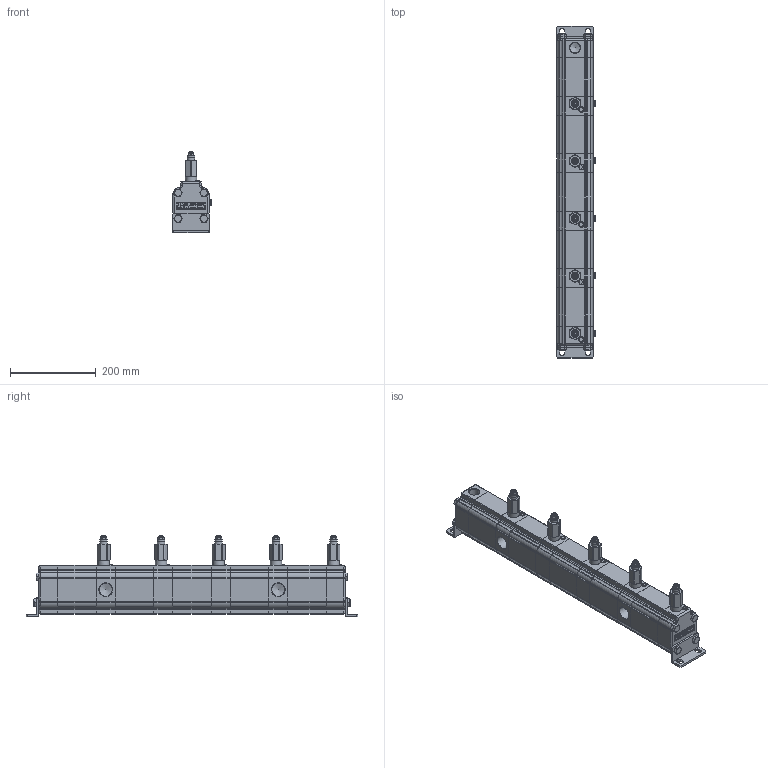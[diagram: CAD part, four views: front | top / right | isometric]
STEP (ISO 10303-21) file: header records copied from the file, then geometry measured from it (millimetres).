
FILE_DESCRIPTION(/* description */ ('Unknown'),/* implementation_level */ '2;1');
FILE_NAME(/* name */ '9RV05-59',/* time_stamp */ '2020-04-16T13:18:46+02:00',/* author */ ('Unknown'),/* organization */ ('Unknown'),/* preprocessor_version */ 'ST-DEVELOPER v16.7',/* originating_system */ 'DEX',/* authorisation */ $);
FILE_SCHEMA (('AUTOMOTIVE_DESIGN {1 0 10303 214 3 1 1}'));
Products named in the file (1): RV-2V
Bounding box: 90.5 x 774 x 189.85 mm (x, y, z)
Volume: 6161600 mm3; surface area: 340286.3 mm2
Topology: 1 solids, 1 shells, 1401 faces, 3729 edges, 2395 vertices
Faces by surface type: plane 607, cylinder 584, cone 130, bspline 48, torus 32
Full cylindrical faces by diameter (mm): 8 x5, 13.8 x5, 14 x5, 16 x8, 17.003 x5, 18 x5, 24.117 x12, 26.5 x5, 30.291 x4
Entity records: 58227 total; most frequent: CARTESIAN_POINT 13972, DIRECTION 7312, ORIENTED_EDGE 7060, EDGE_CURVE 3530, AXIS2_PLACEMENT_3D 2704, VERTEX_POINT 2344, LINE 1904, VECTOR 1904
